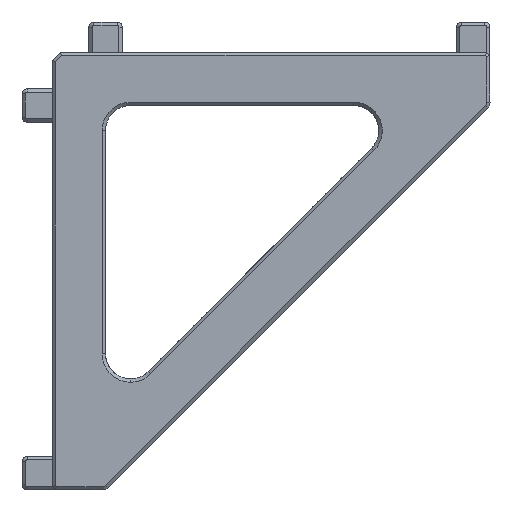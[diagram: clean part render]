
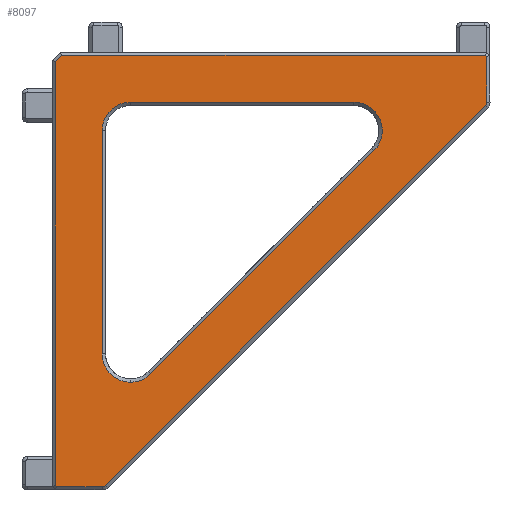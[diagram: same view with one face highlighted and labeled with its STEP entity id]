
A CAD part, front view. The second image highlights one B-rep face of the part: STEP entity #8097.
In plain terms, the highlighted planar face has unit normal (0, -1, 0).
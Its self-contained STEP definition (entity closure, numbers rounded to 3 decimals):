
#9 = DIRECTION ( 'NONE',  ( -1., 0., 0. ) ) ;
#20 = VECTOR ( 'NONE', #4153, 1000. ) ;
#31 = DIRECTION ( 'NONE',  ( 0., 0., -1. ) ) ;
#74 = CARTESIAN_POINT ( 'NONE',  ( 27.8, 0., -2.083 ) ) ;
#90 = CARTESIAN_POINT ( 'NONE',  ( 4.8, 0., 0. ) ) ;
#178 = PLANE ( 'NONE',  #4416 ) ;
#214 = CIRCLE ( 'NONE', #6003, 1.7 ) ;
#374 = DIRECTION ( 'NONE',  ( 0., 0., -1. ) ) ;
#545 = VERTEX_POINT ( 'NONE', #4210 ) ;
#592 = EDGE_CURVE ( 'NONE', #10194, #545, #9787, .T. ) ;
#613 = CARTESIAN_POINT ( 'NONE',  ( 2., 0., 0. ) ) ;
#776 = CIRCLE ( 'NONE', #7861, 1.7 ) ;
#910 = EDGE_CURVE ( 'NONE', #8334, #7069, #7151, .T. ) ;
#940 = VECTOR ( 'NONE', #2119, 1000. ) ;
#973 = CARTESIAN_POINT ( 'NONE',  ( 4.8, 0., -19.853 ) ) ;
#1003 = CARTESIAN_POINT ( 'NONE',  ( 7.702, 0., -21.055 ) ) ;
#1086 = CARTESIAN_POINT ( 'NONE',  ( 2.383, 0., -2. ) ) ;
#1122 = DIRECTION ( 'NONE',  ( 0., 0., -1. ) ) ;
#1137 = CARTESIAN_POINT ( 'NONE',  ( 4.8, 0., -6.5 ) ) ;
#1160 = ORIENTED_EDGE ( 'NONE', *, *, #2683, .F. ) ;
#1169 = DIRECTION ( 'NONE',  ( 0., 0., 1. ) ) ;
#1361 = VECTOR ( 'NONE', #374, 1000. ) ;
#1425 = VERTEX_POINT ( 'NONE', #5026 ) ;
#1438 = VECTOR ( 'NONE', #5459, 1000. ) ;
#1624 = VERTEX_POINT ( 'NONE', #1650 ) ;
#1650 = CARTESIAN_POINT ( 'NONE',  ( 2.083, 0., -27.8 ) ) ;
#1691 = CARTESIAN_POINT ( 'NONE',  ( 2., 0., -2.383 ) ) ;
#1828 = EDGE_LOOP ( 'NONE', ( #7718, #8044, #9318, #7453, #6683, #7970, #9323 ) ) ;
#1929 = ORIENTED_EDGE ( 'NONE', *, *, #4243, .F. ) ;
#2035 = VERTEX_POINT ( 'NONE', #3762 ) ;
#2103 = CIRCLE ( 'NONE', #7871, 0.3 ) ;
#2119 = DIRECTION ( 'NONE',  ( -0.707, 0., 0.707 ) ) ;
#2156 = ORIENTED_EDGE ( 'NONE', *, *, #3245, .F. ) ;
#2177 = VECTOR ( 'NONE', #4233, 1000. ) ;
#2235 = EDGE_CURVE ( 'NONE', #545, #5354, #214, .T. ) ;
#2304 = CARTESIAN_POINT ( 'NONE',  ( 0., 0., -27.8 ) ) ;
#2362 = CARTESIAN_POINT ( 'NONE',  ( 4.793, 0., -27.5 ) ) ;
#2411 = CARTESIAN_POINT ( 'NONE',  ( 21.055, 0., -7.702 ) ) ;
#2452 = CARTESIAN_POINT ( 'NONE',  ( 6.5, 0., -6.5 ) ) ;
#2476 = CIRCLE ( 'NONE', #9574, 1.7 ) ;
#2683 = EDGE_CURVE ( 'NONE', #3612, #4478, #3259, .T. ) ;
#2711 = ORIENTED_EDGE ( 'NONE', *, *, #5321, .T. ) ;
#2720 = CARTESIAN_POINT ( 'NONE',  ( 0., 0., -4.8 ) ) ;
#2764 = VERTEX_POINT ( 'NONE', #973 ) ;
#2907 = CARTESIAN_POINT ( 'NONE',  ( 27.712, 0., -5.005 ) ) ;
#2919 = EDGE_CURVE ( 'NONE', #3282, #10194, #2476, .T. ) ;
#3032 = VECTOR ( 'NONE', #9552, 1000. ) ;
#3234 = DIRECTION ( 'NONE',  ( -0.707, 0., 0.707 ) ) ;
#3245 = EDGE_CURVE ( 'NONE', #4478, #6958, #8906, .T. ) ;
#3249 = DIRECTION ( 'NONE',  ( 0., 0., -1. ) ) ;
#3259 = LINE ( 'NONE', #6408, #3032 ) ;
#3282 = VERTEX_POINT ( 'NONE', #2411 ) ;
#3336 = VERTEX_POINT ( 'NONE', #1691 ) ;
#3340 = CARTESIAN_POINT ( 'NONE',  ( 0., 0., 0. ) ) ;
#3366 = CARTESIAN_POINT ( 'NONE',  ( 4.793, 0., -27.8 ) ) ;
#3508 = CARTESIAN_POINT ( 'NONE',  ( 19.853, 0., -6.5 ) ) ;
#3612 = VERTEX_POINT ( 'NONE', #2907 ) ;
#3762 = CARTESIAN_POINT ( 'NONE',  ( 6.5, 0., -21.553 ) ) ;
#3766 = DIRECTION ( 'NONE',  ( 0., 0., 1. ) ) ;
#3908 = EDGE_LOOP ( 'NONE', ( #2711, #1929, #9528, #4572, #2156, #1160, #6390, #5035, #9327, #7475 ) ) ;
#3935 = LINE ( 'NONE', #7084, #5479 ) ;
#3955 = CARTESIAN_POINT ( 'NONE',  ( 6.5, 0., -19.853 ) ) ;
#4103 = FACE_OUTER_BOUND ( 'NONE', #3908, .T. ) ;
#4153 = DIRECTION ( 'NONE',  ( 0.707, 0., 0.707 ) ) ;
#4210 = CARTESIAN_POINT ( 'NONE',  ( 6.5, 0., -4.8 ) ) ;
#4233 = DIRECTION ( 'NONE',  ( -0.707, 0., -0.707 ) ) ;
#4243 = EDGE_CURVE ( 'NONE', #5975, #3336, #7683, .T. ) ;
#4299 = LINE ( 'NONE', #7448, #1361 ) ;
#4305 = VERTEX_POINT ( 'NONE', #4645 ) ;
#4366 = CARTESIAN_POINT ( 'NONE',  ( 27.8, 0., -2.083 ) ) ;
#4416 = AXIS2_PLACEMENT_3D ( 'NONE', #3340, #6488, #9633 ) ;
#4441 = EDGE_CURVE ( 'NONE', #5354, #2764, #7168, .T. ) ;
#4461 = AXIS2_PLACEMENT_3D ( 'NONE', #2362, #5516, #8651 ) ;
#4478 = VERTEX_POINT ( 'NONE', #4848 ) ;
#4572 = ORIENTED_EDGE ( 'NONE', *, *, #7898, .F. ) ;
#4645 = CARTESIAN_POINT ( 'NONE',  ( 2.383, 0., -2. ) ) ;
#4848 = CARTESIAN_POINT ( 'NONE',  ( 5.005, 0., -27.712 ) ) ;
#5026 = CARTESIAN_POINT ( 'NONE',  ( 27.8, 0., -4.793 ) ) ;
#5035 = ORIENTED_EDGE ( 'NONE', *, *, #6284, .F. ) ;
#5051 = CARTESIAN_POINT ( 'NONE',  ( 6.5, 0., -19.853 ) ) ;
#5084 = EDGE_CURVE ( 'NONE', #7069, #4305, #3935, .T. ) ;
#5098 = CARTESIAN_POINT ( 'NONE',  ( 27.5, 0., -4.793 ) ) ;
#5321 = EDGE_CURVE ( 'NONE', #4305, #3336, #8157, .T. ) ;
#5354 = VERTEX_POINT ( 'NONE', #1137 ) ;
#5459 = DIRECTION ( 'NONE',  ( -1., 0., 0. ) ) ;
#5463 = AXIS2_PLACEMENT_3D ( 'NONE', #3955, #7103, #31 ) ;
#5479 = VECTOR ( 'NONE', #9, 1000. ) ;
#5516 = DIRECTION ( 'NONE',  ( 0., 1., 0. ) ) ;
#5600 = DIRECTION ( 'NONE',  ( 0., -1., 0. ) ) ;
#5871 = DIRECTION ( 'NONE',  ( -1., 0., 0. ) ) ;
#5915 = VERTEX_POINT ( 'NONE', #7574 ) ;
#5975 = VERTEX_POINT ( 'NONE', #6858 ) ;
#6003 = AXIS2_PLACEMENT_3D ( 'NONE', #2452, #5600, #8742 ) ;
#6025 = VECTOR ( 'NONE', #5871, 1000. ) ;
#6046 = LINE ( 'NONE', #9193, #940 ) ;
#6263 = VECTOR ( 'NONE', #3766, 1000. ) ;
#6284 = EDGE_CURVE ( 'NONE', #8334, #1425, #4299, .T. ) ;
#6390 = ORIENTED_EDGE ( 'NONE', *, *, #9553, .F. ) ;
#6408 = CARTESIAN_POINT ( 'NONE',  ( 27.712, 0., -5.005 ) ) ;
#6488 = DIRECTION ( 'NONE',  ( 0., 1., 0. ) ) ;
#6657 = DIRECTION ( 'NONE',  ( 0., -1., 0. ) ) ;
#6683 = ORIENTED_EDGE ( 'NONE', *, *, #7476, .F. ) ;
#6858 = CARTESIAN_POINT ( 'NONE',  ( 2., 0., -27.717 ) ) ;
#6958 = VERTEX_POINT ( 'NONE', #3366 ) ;
#7069 = VERTEX_POINT ( 'NONE', #9041 ) ;
#7084 = CARTESIAN_POINT ( 'NONE',  ( 0., 0., -2. ) ) ;
#7103 = DIRECTION ( 'NONE',  ( 0., -1., 0. ) ) ;
#7151 = LINE ( 'NONE', #74, #7746 ) ;
#7168 = LINE ( 'NONE', #90, #9842 ) ;
#7200 = EDGE_CURVE ( 'NONE', #1624, #5975, #6046, .T. ) ;
#7252 = FACE_BOUND ( 'NONE', #1828, .T. ) ;
#7448 = CARTESIAN_POINT ( 'NONE',  ( 27.8, 0., 0. ) ) ;
#7453 = ORIENTED_EDGE ( 'NONE', *, *, #10121, .F. ) ;
#7475 = ORIENTED_EDGE ( 'NONE', *, *, #5084, .T. ) ;
#7476 = EDGE_CURVE ( 'NONE', #2035, #5915, #776, .T. ) ;
#7574 = CARTESIAN_POINT ( 'NONE',  ( 7.702, 0., -21.055 ) ) ;
#7683 = LINE ( 'NONE', #613, #6263 ) ;
#7718 = ORIENTED_EDGE ( 'NONE', *, *, #2235, .F. ) ;
#7746 = VECTOR ( 'NONE', #3234, 1000. ) ;
#7861 = AXIS2_PLACEMENT_3D ( 'NONE', #5051, #8191, #1122 ) ;
#7871 = AXIS2_PLACEMENT_3D ( 'NONE', #5098, #8240, #1169 ) ;
#7898 = EDGE_CURVE ( 'NONE', #6958, #1624, #9380, .T. ) ;
#7970 = ORIENTED_EDGE ( 'NONE', *, *, #9937, .F. ) ;
#8044 = ORIENTED_EDGE ( 'NONE', *, *, #592, .F. ) ;
#8073 = LINE ( 'NONE', #1003, #20 ) ;
#8097 = ADVANCED_FACE ( 'NONE', ( #4103, #7252 ), #178, .F. ) ;
#8157 = LINE ( 'NONE', #1086, #2177 ) ;
#8177 = CARTESIAN_POINT ( 'NONE',  ( 19.853, 0., -4.8 ) ) ;
#8191 = DIRECTION ( 'NONE',  ( 0., -1., 0. ) ) ;
#8240 = DIRECTION ( 'NONE',  ( 0., 1., 0. ) ) ;
#8334 = VERTEX_POINT ( 'NONE', #4366 ) ;
#8651 = DIRECTION ( 'NONE',  ( 0., 0., 1. ) ) ;
#8742 = DIRECTION ( 'NONE',  ( 0., 0., -1. ) ) ;
#8906 = CIRCLE ( 'NONE', #4461, 0.3 ) ;
#9041 = CARTESIAN_POINT ( 'NONE',  ( 27.717, 0., -2. ) ) ;
#9193 = CARTESIAN_POINT ( 'NONE',  ( 2.083, 0., -27.8 ) ) ;
#9318 = ORIENTED_EDGE ( 'NONE', *, *, #2919, .F. ) ;
#9323 = ORIENTED_EDGE ( 'NONE', *, *, #4441, .F. ) ;
#9327 = ORIENTED_EDGE ( 'NONE', *, *, #910, .T. ) ;
#9380 = LINE ( 'NONE', #2304, #1438 ) ;
#9528 = ORIENTED_EDGE ( 'NONE', *, *, #7200, .F. ) ;
#9552 = DIRECTION ( 'NONE',  ( -0.707, 0., -0.707 ) ) ;
#9553 = EDGE_CURVE ( 'NONE', #1425, #3612, #2103, .T. ) ;
#9574 = AXIS2_PLACEMENT_3D ( 'NONE', #3508, #6657, #9799 ) ;
#9633 = DIRECTION ( 'NONE',  ( 0., 0., 1. ) ) ;
#9787 = LINE ( 'NONE', #2720, #6025 ) ;
#9799 = DIRECTION ( 'NONE',  ( 0., 0., -1. ) ) ;
#9842 = VECTOR ( 'NONE', #3249, 1000. ) ;
#9918 = CIRCLE ( 'NONE', #5463, 1.7 ) ;
#9937 = EDGE_CURVE ( 'NONE', #2764, #2035, #9918, .T. ) ;
#10121 = EDGE_CURVE ( 'NONE', #5915, #3282, #8073, .T. ) ;
#10194 = VERTEX_POINT ( 'NONE', #8177 ) ;
